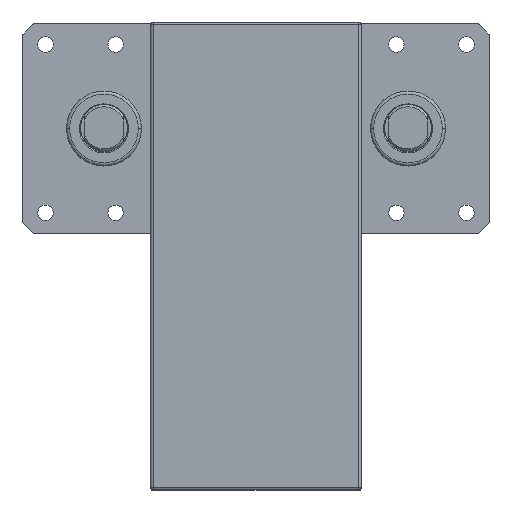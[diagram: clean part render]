
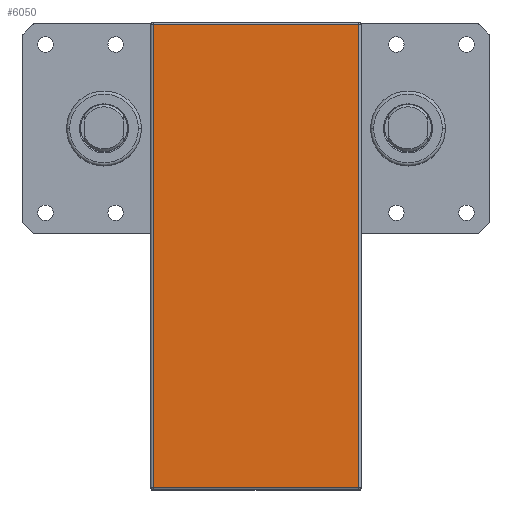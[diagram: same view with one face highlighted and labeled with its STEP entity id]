
A CAD part, top view. The second image highlights one B-rep face of the part: STEP entity #6050.
In plain terms, the highlighted planar face has unit normal (0, 0, 1).
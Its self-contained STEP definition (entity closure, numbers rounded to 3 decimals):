
#4078 = CARTESIAN_POINT ( 'NONE',  ( 44., 44., 313. ) ) ;
#6050 = ADVANCED_FACE ( 'NONE', ( #11720 ), #16476, .T. ) ;
#7641 = EDGE_CURVE ( 'NONE', #10473, #23940, #29561, .T. ) ;
#7863 = CARTESIAN_POINT ( 'NONE',  ( -44., 44., 313. ) ) ;
#9195 = CARTESIAN_POINT ( 'NONE',  ( -44., -154., 313. ) ) ;
#9803 = VERTEX_POINT ( 'NONE', #4078 ) ;
#10473 = VERTEX_POINT ( 'NONE', #9195 ) ;
#10555 = VERTEX_POINT ( 'NONE', #43139 ) ;
#11720 = FACE_OUTER_BOUND ( 'NONE', #28740, .T. ) ;
#13046 = CARTESIAN_POINT ( 'NONE',  ( 44., -154., 313. ) ) ;
#15884 = EDGE_CURVE ( 'NONE', #9803, #10555, #41182, .T. ) ;
#16476 = PLANE ( 'NONE',  #22674 ) ;
#17832 = EDGE_CURVE ( 'NONE', #10555, #10473, #47479, .T. ) ;
#19026 = VECTOR ( 'NONE', #47692, 1000. ) ;
#19833 = ORIENTED_EDGE ( 'NONE', *, *, #15884, .T. ) ;
#20161 = DIRECTION ( 'NONE',  ( 0., 0., 1. ) ) ;
#21709 = CARTESIAN_POINT ( 'NONE',  ( -44., -154., 313. ) ) ;
#22674 = AXIS2_PLACEMENT_3D ( 'NONE', #34949, #20161, #46168 ) ;
#23708 = LINE ( 'NONE', #38275, #30922 ) ;
#23940 = VERTEX_POINT ( 'NONE', #13046 ) ;
#25554 = CARTESIAN_POINT ( 'NONE',  ( 44., -154., 313. ) ) ;
#28740 = EDGE_LOOP ( 'NONE', ( #47429, #35549, #44247, #19833 ) ) ;
#29561 = LINE ( 'NONE', #25554, #38295 ) ;
#30922 = VECTOR ( 'NONE', #31142, 1000. ) ;
#31142 = DIRECTION ( 'NONE',  ( 0., 1., 0. ) ) ;
#31326 = VECTOR ( 'NONE', #33858, 1000. ) ;
#33858 = DIRECTION ( 'NONE',  ( -1., 0., 0. ) ) ;
#34949 = CARTESIAN_POINT ( 'NONE',  ( -44., -154., 313. ) ) ;
#35549 = ORIENTED_EDGE ( 'NONE', *, *, #7641, .T. ) ;
#38275 = CARTESIAN_POINT ( 'NONE',  ( 44., 44., 313. ) ) ;
#38295 = VECTOR ( 'NONE', #47800, 1000. ) ;
#41182 = LINE ( 'NONE', #7863, #31326 ) ;
#43139 = CARTESIAN_POINT ( 'NONE',  ( -44., 44., 313. ) ) ;
#44247 = ORIENTED_EDGE ( 'NONE', *, *, #48166, .T. ) ;
#46168 = DIRECTION ( 'NONE',  ( 1., 0., 0. ) ) ;
#47429 = ORIENTED_EDGE ( 'NONE', *, *, #17832, .T. ) ;
#47479 = LINE ( 'NONE', #21709, #19026 ) ;
#47692 = DIRECTION ( 'NONE',  ( 0., -1., 0. ) ) ;
#47800 = DIRECTION ( 'NONE',  ( 1., 0., 0. ) ) ;
#48166 = EDGE_CURVE ( 'NONE', #23940, #9803, #23708, .T. ) ;
